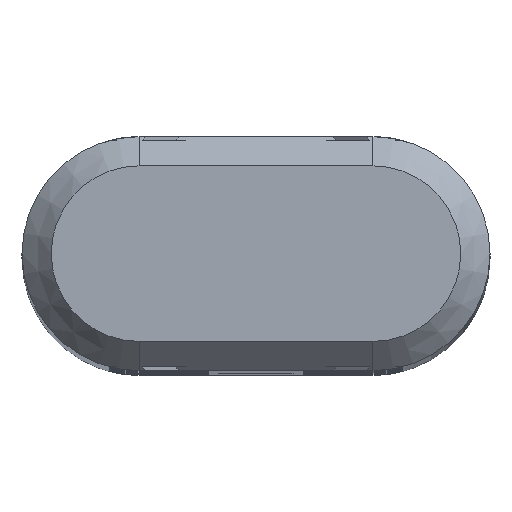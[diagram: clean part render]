
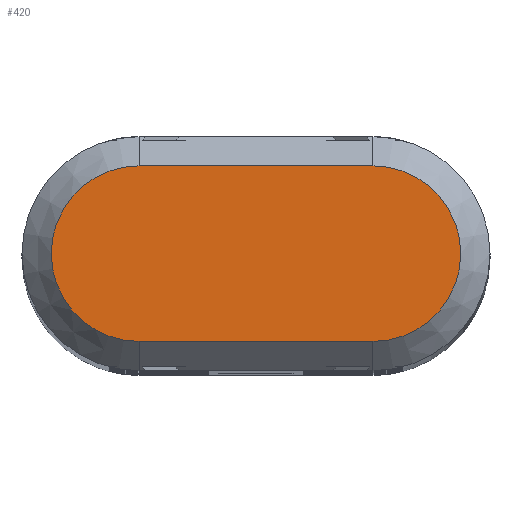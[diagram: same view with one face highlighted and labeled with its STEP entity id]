
A CAD part, top view. The second image highlights one B-rep face of the part: STEP entity #420.
In plain terms, the highlighted planar face has unit normal (0, 0, 1).
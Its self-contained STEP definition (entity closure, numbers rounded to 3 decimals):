
#10=CARTESIAN_POINT('',(13.869,4.044,
17.));
#20=DIRECTION('',(0.,0.,1.));
#30=DIRECTION('',(1.,0.,0.));
#40=AXIS2_PLACEMENT_3D('',#10,#20,#30);
#50=PLANE('',#40);
#60=CARTESIAN_POINT('',(7.869,4.044,
17.));
#70=DIRECTION('',(0.,0.,1.));
#80=DIRECTION('',(1.,0.,0.));
#90=AXIS2_PLACEMENT_3D('',#60,#70,#80);
#100=CIRCLE('',#90,4.5);
#110=CARTESIAN_POINT('',(7.869,8.544,
17.));
#120=VERTEX_POINT('',#110);
#130=CARTESIAN_POINT('',(7.869,-0.456,
17.));
#140=VERTEX_POINT('',#130);
#150=EDGE_CURVE('',#120,#140,#100,.T.);
#160=ORIENTED_EDGE('',*,*,#150,.T.);
#170=CARTESIAN_POINT('',(13.869,8.544,
17.));
#180=DIRECTION('',(-1.,0.,0.));
#190=VECTOR('',#180,1.);
#200=LINE('',#170,#190);
#210=CARTESIAN_POINT('',(19.869,8.544,
17.));
#220=VERTEX_POINT('',#210);
#230=EDGE_CURVE('',#220,#120,#200,.T.);
#240=ORIENTED_EDGE('',*,*,#230,.T.);
#250=CARTESIAN_POINT('',(19.869,4.044,
17.));
#260=DIRECTION('',(0.,0.,1.));
#270=DIRECTION('',(1.,0.,0.));
#280=AXIS2_PLACEMENT_3D('',#250,#260,#270);
#290=CIRCLE('',#280,4.5);
#300=CARTESIAN_POINT('',(19.869,-0.456,
17.));
#310=VERTEX_POINT('',#300);
#320=EDGE_CURVE('',#310,#220,#290,.T.);
#330=ORIENTED_EDGE('',*,*,#320,.T.);
#340=CARTESIAN_POINT('',(13.869,-0.456,
17.));
#350=DIRECTION('',(1.,0.,0.));
#360=VECTOR('',#350,1.);
#370=LINE('',#340,#360);
#380=EDGE_CURVE('',#140,#310,#370,.T.);
#390=ORIENTED_EDGE('',*,*,#380,.T.);
#400=EDGE_LOOP('',(#390,#330,#240,#160));
#410=FACE_OUTER_BOUND('',#400,.T.);
#420=ADVANCED_FACE('',(#410),#50,.T.);
